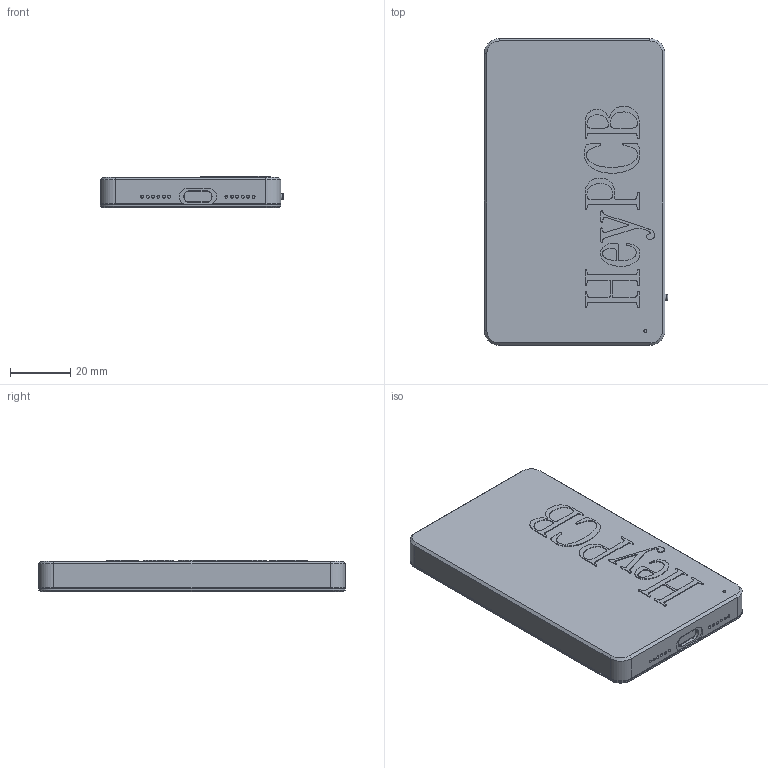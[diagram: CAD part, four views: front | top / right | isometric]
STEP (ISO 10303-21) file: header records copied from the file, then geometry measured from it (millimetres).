
FILE_DESCRIPTION(('Open CASCADE Model'),'2;1');
FILE_NAME('heypcb_cnc_assembly','2026-10-13T02:31:09',('Author'),( 'Open CASCADE'),'Open CASCADE STEP processor 8.0','build123d', 'Unknown');
FILE_SCHEMA(('AUTOMOTIVE_DESIGN { 1 0 10303 214 1 1 1 1 }'));
Length unit declared in the file: millimetre
Products named in the file (17): heypcb_cnc_assembly; COMPOUND
Assembly tree (16 placements, depth 2):
  heypcb_cnc_assembly
    COMPOUND
    COMPOUND
    COMPOUND
    COMPOUND
    COMPOUND
    COMPOUND
    COMPOUND
    COMPOUND
    COMPOUND
    COMPOUND
    COMPOUND
    COMPOUND
    COMPOUND
    COMPOUND
    COMPOUND
    COMPOUND
Bounding box: 60.9 x 102 x 10.35 mm (x, y, z)
Volume: 40851.6 mm3; surface area: 45365.2 mm2
Topology: 16 solids, 16 shells, 506 faces, 1322 edges, 871 vertices
Faces by surface type: plane 219, extrusion 177, cylinder 92, cone 17, torus 1
Full cylindrical faces by diameter (mm): 1 x13, 1.25 x5, 1.8 x5, 2 x2, 2.2 x1, 3.1 x1, 10 x1, 45.4 x1, 46 x1, 56 x1
Entity records: 34285 total; most frequent: CARTESIAN_POINT 8772, DIRECTION 4080, VECTOR 2860, LINE 2683, ORIENTED_EDGE 2644, PCURVE 2644, DEFINITIONAL_REPRESENTATION 2644, EDGE_CURVE 1322
